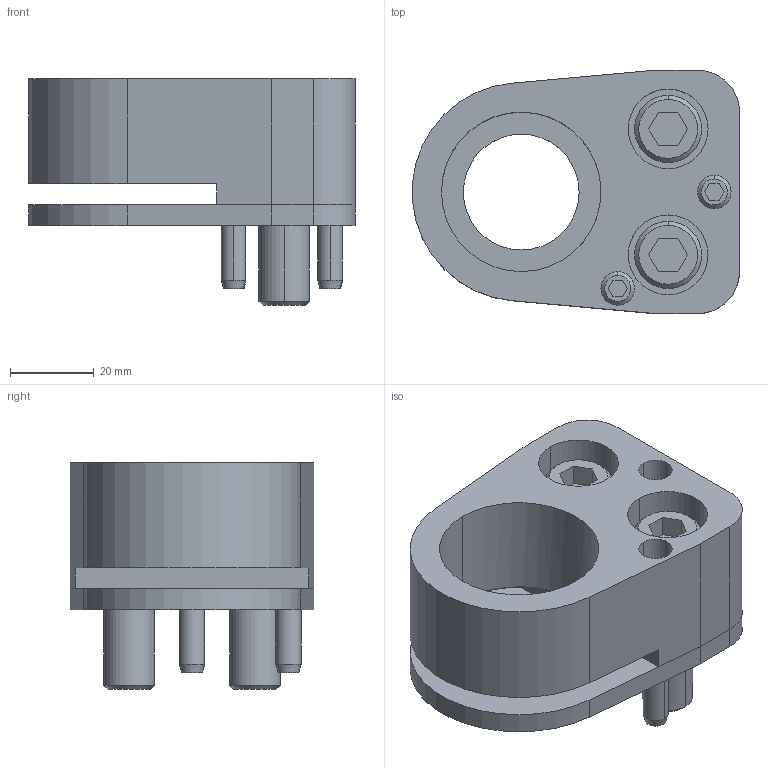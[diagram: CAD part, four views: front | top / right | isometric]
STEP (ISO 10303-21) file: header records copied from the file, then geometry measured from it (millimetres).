
FILE_DESCRIPTION(/* description */ (''),/* implementation_level */ '2;1');
FILE_NAME(/* name */ '3d_cp-fd38_03593_r00.stp',/* time_stamp */ '2011-01-10T14:16:28+09:00',/* author */ ('MISUMI'),/* organization */ (''),/* preprocessor_version */ 'ST-DEVELOPER v11',/* originating_system */ 'UGS - NX 5.0',/* authorisation */ '');
FILE_SCHEMA (('CONFIG_CONTROL_DESIGN'));
Length unit declared in the file: millimetre
Products named in the file (1): 3d_cp-fd38_03593_r00
Bounding box: 77.9 x 58 x 54 mm (x, y, z)
Volume: 94204.5 mm3; surface area: 34285.6 mm2
Topology: 8 solids, 8 shells, 154 faces, 353 edges, 228 vertices
Faces by surface type: plane 68, cylinder 60, cone 26
Entity records: 4523 total; most frequent: DIRECTION 803, CARTESIAN_POINT 793, ORIENTED_EDGE 706, EDGE_CURVE 353, AXIS2_PLACEMENT_3D 302, VERTEX_POINT 228, LINE 199, VECTOR 199
